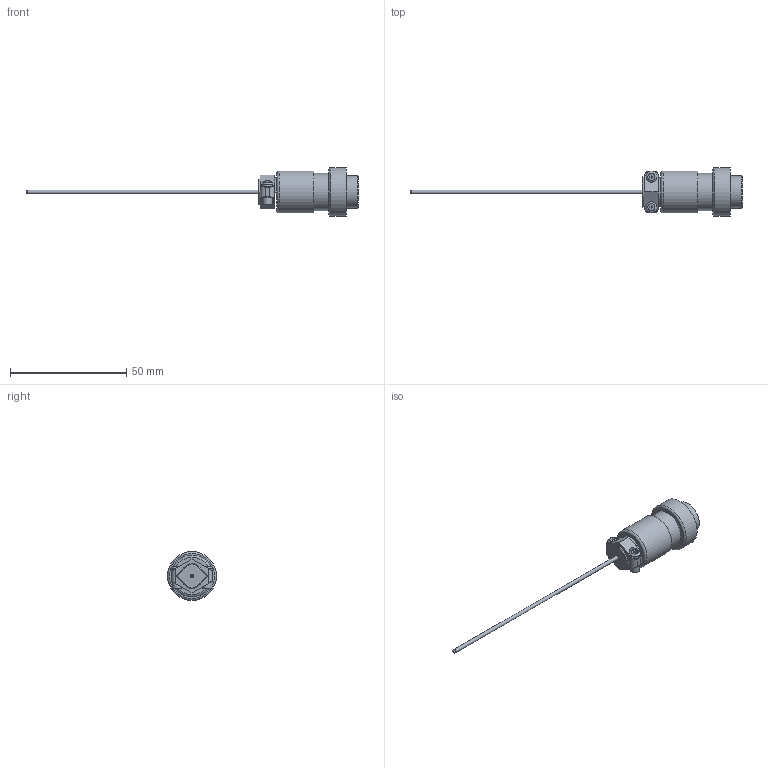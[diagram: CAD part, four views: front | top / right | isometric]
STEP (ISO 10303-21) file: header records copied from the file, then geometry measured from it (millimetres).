
FILE_DESCRIPTION (( 'STEP AP203' ), '1' );
FILE_NAME ('YIT90S-1(0).step', '2025-06-19T02:30:22', ( '' ), ( '' ), 'SwSTEP 2.0', 'SolidWorks 2021', '' );
FILE_SCHEMA (( 'CONFIG_CONTROL_DESIGN' ));
Length unit declared in the file: millimetre
Products named in the file (1): YIT90S-1(0)
Bounding box: 143 x 21 x 21 mm (x, y, z)
Volume: 8499.4 mm3; surface area: 5232.9 mm2
Topology: 4 solids, 4 shells, 82 faces, 194 edges, 127 vertices
Faces by surface type: plane 50, cylinder 20, torus 5, bspline 4, sphere 2, cone 1
Full cylindrical faces by diameter (mm): 1.6 x1, 2.5 x1, 3 x1, 4 x2, 4.7 x2, 4.8 x2, 13.5 x1, 14 x1, 16 x2, 18 x1, 21 x1
Entity records: 2381 total; most frequent: CARTESIAN_POINT 615, DIRECTION 328, ORIENTED_EDGE 316, EDGE_CURVE 158, EDGE_LOOP 118, VERTEX_POINT 116, AXIS2_PLACEMENT_3D 113, VECTOR 102
